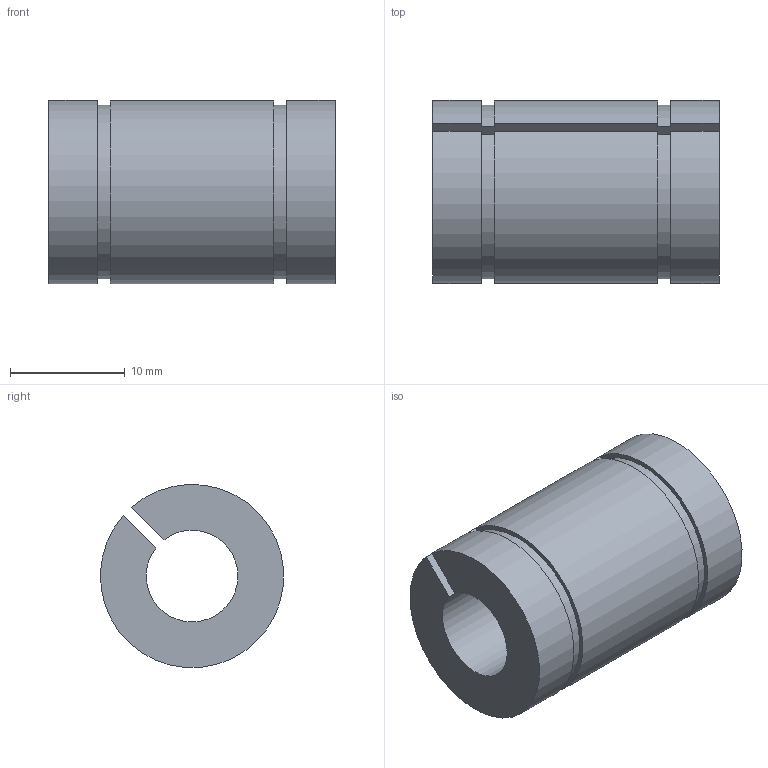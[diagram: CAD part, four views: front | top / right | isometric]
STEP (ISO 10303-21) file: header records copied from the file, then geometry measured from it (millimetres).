
FILE_DESCRIPTION( ( 'STEP AP203' ), '1' );
FILE_NAME( 'p:/temp/worker_87/temp/exporttempdir_3928_180_Nr6eD/format_0/LME8UU-AJ.stp', '2020-04-29T03:20:46', ( 'License CC BY-ND 4.0' ), ( 'CADENAS' ), ' ', 'PARTsolutions', ' ' );
FILE_SCHEMA( ( 'CONFIG_CONTROL_DESIGN' ) );
Length unit declared in the file: millimetre
Products named in the file (1): _LME8UU-AJ
Bounding box: 25 x 15.97 x 15.97 mm (x, y, z)
Volume: 3627.5 mm3; surface area: 2398.8 mm2
Topology: 1 solids, 1 shells, 14 faces, 36 edges, 24 vertices
Faces by surface type: plane 8, cylinder 6
Entity records: 476 total; most frequent: DIRECTION 78, CARTESIAN_POINT 75, ORIENTED_EDGE 72, EDGE_CURVE 36, AXIS2_PLACEMENT_3D 27, VERTEX_POINT 24, LINE 24, VECTOR 24
